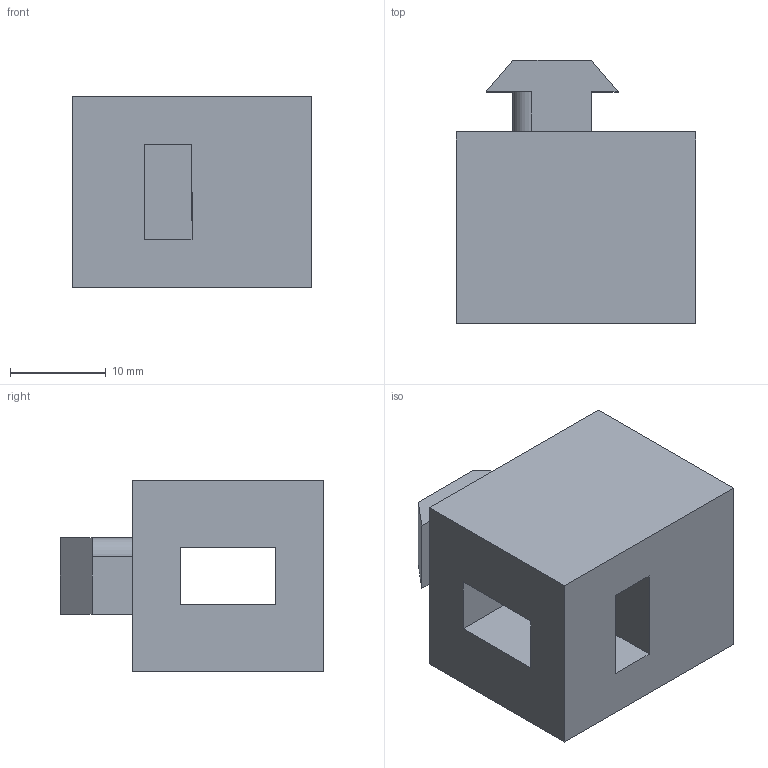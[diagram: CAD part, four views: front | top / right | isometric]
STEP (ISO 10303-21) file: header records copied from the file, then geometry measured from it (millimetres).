
FILE_DESCRIPTION (( 'STEP AP203' ), '1' );
FILE_NAME ('DMB408T.STEP', '2018-11-23T00:46:04', ( '' ), ( '' ), 'SwSTEP 2.0', 'SolidWorks 2012', '' );
FILE_SCHEMA (( 'CONFIG_CONTROL_DESIGN' ));
Length unit declared in the file: millimetre
Products named in the file (1): DMB408T
Bounding box: 25 x 27.5 x 20 mm (x, y, z)
Volume: 8558.7 mm3; surface area: 3998.9 mm2
Topology: 1 solids, 1 shells, 30 faces, 78 edges, 52 vertices
Faces by surface type: plane 28, cylinder 2
Entity records: 991 total; most frequent: CARTESIAN_POINT 161, ORIENTED_EDGE 156, DIRECTION 144, EDGE_CURVE 78, VECTOR 74, LINE 74, VERTEX_POINT 52, EDGE_LOOP 36
